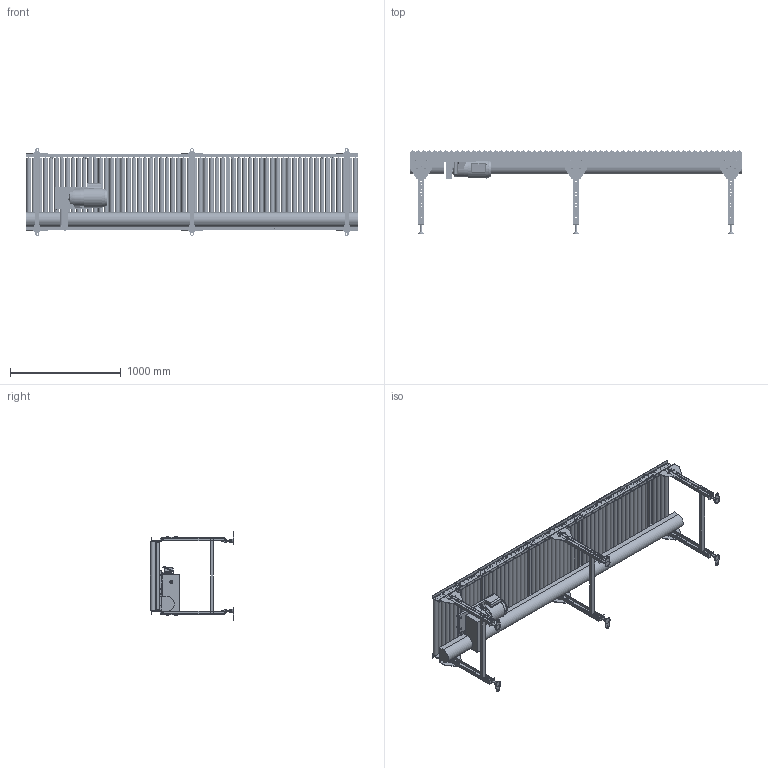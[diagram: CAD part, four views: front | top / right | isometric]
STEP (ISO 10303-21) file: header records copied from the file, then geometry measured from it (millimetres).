
FILE_DESCRIPTION( (''), '2;1');
FILE_NAME ('WEB-MCD-42-630-50-300-D-R.stp','2026-03-19T09:48:36',(''),(''),'spGate 20.6.2 (****-****-****-****)','','');
FILE_SCHEMA (('AUTOMOTIVE_DESIGN'));
Length unit declared in the file: millimetre
Products named in the file (190): WEB-MCD-42-630-50-300-D-R; TEMP_X_T-prt0; TEMP_X_T-prt1; TEMP_X_T-prt2; TEMP_X_T-prt3; TEMP_X_T-prt4; TEMP_X_T-prt5; TEMP_X_T-prt6; TEMP_X_T-prt7; TEMP_X_T-prt8; TEMP_X_T-prt9; TEMP_X_T-prt10; TEMP_X_T-prt11; TEMP_X_T-prt12; TEMP_X_T-prt13; TEMP_X_T-prt14; TEMP_X_T-prt15; TEMP_X_T-prt16; TEMP_X_T-prt17; TEMP_X_T-prt18; TEMP_X_T-prt19; TEMP_X_T-prt20; TEMP_X_T-prt21; TEMP_X_T-prt22; TEMP_X_T-prt23; TEMP_X_T-prt24; TEMP_X_T-prt25; TEMP_X_T-prt26; TEMP_X_T-prt27; TEMP_X_T-prt28; TEMP_X_T-prt29; TEMP_X_T-prt30; TEMP_X_T-prt31; TEMP_X_T-prt32; TEMP_X_T-prt33; TEMP_X_T-prt34; TEMP_X_T-prt35; TEMP_X_T-prt36; TEMP_X_T-prt37; TEMP_X_T-prt38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
Assembly tree (189 placements, depth 2):
  WEB-MCD-42-630-50-300-D-R
    TEMP_X_T-prt0
    TEMP_X_T-prt1
    TEMP_X_T-prt2
    TEMP_X_T-prt3
    TEMP_X_T-prt4
    TEMP_X_T-prt5
    TEMP_X_T-prt6
    TEMP_X_T-prt7
    TEMP_X_T-prt8
    TEMP_X_T-prt9
    TEMP_X_T-prt10
    TEMP_X_T-prt11
    TEMP_X_T-prt12
    TEMP_X_T-prt13
    TEMP_X_T-prt14
    TEMP_X_T-prt15
    TEMP_X_T-prt16
    TEMP_X_T-prt17
    TEMP_X_T-prt18
    TEMP_X_T-prt19
    TEMP_X_T-prt20
    TEMP_X_T-prt21
    TEMP_X_T-prt22
    TEMP_X_T-prt23
    TEMP_X_T-prt24
    TEMP_X_T-prt25
    TEMP_X_T-prt26
    TEMP_X_T-prt27
    TEMP_X_T-prt28
    TEMP_X_T-prt29
    TEMP_X_T-prt30
    TEMP_X_T-prt31
    TEMP_X_T-prt32
    TEMP_X_T-prt33
    TEMP_X_T-prt34
    TEMP_X_T-prt35
    TEMP_X_T-prt36
    TEMP_X_T-prt37
    TEMP_X_T-prt38
    TEMP_X_T-prt39
    TEMP_X_T-prt40
    TEMP_X_T-prt41
    TEMP_X_T-prt42
    TEMP_X_T-prt43
    TEMP_X_T-prt44
    TEMP_X_T-prt45
    TEMP_X_T-prt46
    TEMP_X_T-prt47
    TEMP_X_T-prt48
    TEMP_X_T-prt49
    TEMP_X_T-prt50
    TEMP_X_T-prt51
    TEMP_X_T-prt52
    TEMP_X_T-prt53
    TEMP_X_T-prt54
    TEMP_X_T-prt55
    TEMP_X_T-prt56
    TEMP_X_T-prt57
    TEMP_X_T-prt58
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Bounding box: 3000 x 750 x 797 mm (x, y, z)
Volume: 114509118.6 mm3; surface area: 11008116.5 mm2
Topology: 189 solids, 219 shells, 4235 faces, 10456 edges, 7035 vertices
Faces by surface type: plane 3285, cylinder 863, bspline 86, sphere 1
Full cylindrical faces by diameter (mm): 3.4 x8, 6 x1, 6.647 x1, 6.94 x3, 7 x1, 8 x8, 8.5 x4, 9 x4, 10 x118, 10.2 x5, 10.5 x171, 11 x68, 12 x124, 13 x24, 16 x10, 18 x8, 18.4 x45, 18.5 x12, 21 x22, 22 x5, 27 x1, 28 x1, 31 x1, 42.7 x60, 63 x1, 149.6 x1, 153 x1
Entity records: 220841 total; most frequent: CARTESIAN_POINT 27180, DIRECTION 22083, ORIENTED_EDGE 20910, COLOUR_RGB 14879, PRESENTATION_STYLE_ASSIGNMENT 14879, STYLED_ITEM 14879, EDGE_CURVE 10455, DRAUGHTING_PRE_DEFINED_CURVE_FONT 10455
